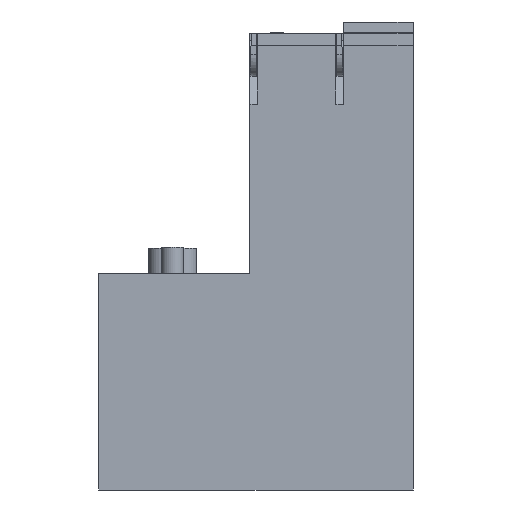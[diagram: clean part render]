
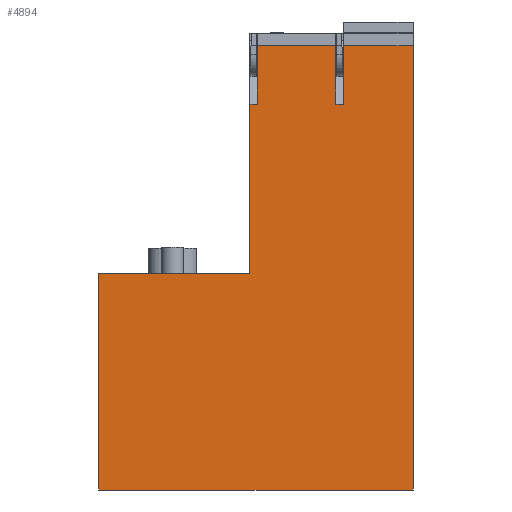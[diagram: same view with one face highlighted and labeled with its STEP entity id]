
A CAD part, front view. The second image highlights one B-rep face of the part: STEP entity #4894.
In plain terms, the highlighted planar face has unit normal (0, -1, 0).
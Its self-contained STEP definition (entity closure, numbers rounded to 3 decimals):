
#1=DIRECTION('',(0.,0.,-1.));
#2=VECTOR('',#1,35.902);
#3=CARTESIAN_POINT('',(-26.,-59.75,28.902));
#4=LINE('',#3,#2);
#43=DIRECTION('',(0.,0.,1.));
#44=VECTOR('',#43,9.689);
#45=CARTESIAN_POINT('',(14.5,-59.75,56.859));
#46=LINE('',#45,#44);
#47=DIRECTION('',(0.,0.,-1.));
#48=VECTOR('',#47,73.548);
#49=CARTESIAN_POINT('',(26.,-59.75,66.548));
#50=LINE('',#49,#48);
#51=DIRECTION('',(-1.,0.,0.));
#52=VECTOR('',#51,52.);
#53=CARTESIAN_POINT('',(26.,-59.75,-7.));
#54=LINE('',#53,#52);
#55=DIRECTION('',(0.,0.,-1.));
#56=VECTOR('',#55,9.689);
#57=CARTESIAN_POINT('',(13.2,-59.75,66.548));
#58=LINE('',#57,#56);
#59=DIRECTION('',(-1.,0.,0.));
#60=VECTOR('',#59,1.3);
#61=CARTESIAN_POINT('',(14.5,-59.75,56.859));
#62=LINE('',#61,#60);
#115=DIRECTION('',(-1.,0.,0.));
#116=VECTOR('',#115,13.);
#117=CARTESIAN_POINT('',(13.2,-59.75,66.548));
#118=LINE('',#117,#116);
#159=DIRECTION('',(0.,0.,-1.));
#160=VECTOR('',#159,9.689);
#161=CARTESIAN_POINT('',(0.2,-59.75,66.548));
#162=LINE('',#161,#160);
#163=DIRECTION('',(-1.,0.,0.));
#164=VECTOR('',#163,1.2);
#165=CARTESIAN_POINT('',(0.2,-59.75,56.859));
#166=LINE('',#165,#164);
#187=DIRECTION('',(0.,0.,-1.));
#188=VECTOR('',#187,27.957);
#189=CARTESIAN_POINT('',(-1.,-59.75,56.859));
#190=LINE('',#189,#188);
#390=DIRECTION('',(-1.,0.,0.));
#391=VECTOR('',#390,11.5);
#392=CARTESIAN_POINT('',(26.,-59.75,66.548));
#393=LINE('',#392,#391);
#1659=DIRECTION('',(-1.,0.,0.));
#1660=VECTOR('',#1659,25.);
#1661=CARTESIAN_POINT('',(-1.,-59.75,28.902));
#1662=LINE('',#1661,#1660);
#3770=CARTESIAN_POINT('',(-26.,-59.75,28.902));
#3771=CARTESIAN_POINT('',(-26.,-59.75,-7.));
#3772=VERTEX_POINT('',#3770);
#3773=VERTEX_POINT('',#3771);
#3790=CARTESIAN_POINT('',(14.5,-59.75,56.859));
#3791=CARTESIAN_POINT('',(13.2,-59.75,56.859));
#3792=VERTEX_POINT('',#3790);
#3793=VERTEX_POINT('',#3791);
#3794=CARTESIAN_POINT('',(14.5,-59.75,66.548));
#3795=VERTEX_POINT('',#3794);
#3796=CARTESIAN_POINT('',(26.,-59.75,66.548));
#3797=VERTEX_POINT('',#3796);
#3798=CARTESIAN_POINT('',(26.,-59.75,-7.));
#3799=VERTEX_POINT('',#3798);
#3800=CARTESIAN_POINT('',(-1.,-59.75,28.902));
#3801=VERTEX_POINT('',#3800);
#3802=CARTESIAN_POINT('',(-1.,-59.75,56.859));
#3803=VERTEX_POINT('',#3802);
#3804=CARTESIAN_POINT('',(0.2,-59.75,56.859));
#3805=VERTEX_POINT('',#3804);
#3806=CARTESIAN_POINT('',(0.2,-59.75,66.548));
#3807=VERTEX_POINT('',#3806);
#3808=CARTESIAN_POINT('',(13.2,-59.75,66.548));
#3809=VERTEX_POINT('',#3808);
#4864=CARTESIAN_POINT('',(-26.,-59.75,-7.));
#4865=DIRECTION('',(0.,-1.,0.));
#4866=DIRECTION('',(0.,0.,1.));
#4867=AXIS2_PLACEMENT_3D('',#4864,#4865,#4866);
#4868=PLANE('',#4867);
#4870=ORIENTED_EDGE('',*,*,#4869,.F.);
#4872=ORIENTED_EDGE('',*,*,#4871,.T.);
#4874=ORIENTED_EDGE('',*,*,#4873,.F.);
#4876=ORIENTED_EDGE('',*,*,#4875,.T.);
#4878=ORIENTED_EDGE('',*,*,#4877,.T.);
#4879=ORIENTED_EDGE('',*,*,#4841,.F.);
#4881=ORIENTED_EDGE('',*,*,#4880,.F.);
#4883=ORIENTED_EDGE('',*,*,#4882,.F.);
#4885=ORIENTED_EDGE('',*,*,#4884,.F.);
#4887=ORIENTED_EDGE('',*,*,#4886,.F.);
#4889=ORIENTED_EDGE('',*,*,#4888,.F.);
#4891=ORIENTED_EDGE('',*,*,#4890,.T.);
#4892=EDGE_LOOP('',(#4870,#4872,#4874,#4876,#4878,#4879,#4881,#4883,#4885,#4887,
#4889,#4891));
#4893=FACE_OUTER_BOUND('',#4892,.F.);
#4894=ADVANCED_FACE('',(#4893),#4868,.T.);
#4841=EDGE_CURVE('',#3772,#3773,#4,.T.);
#4869=EDGE_CURVE('',#3792,#3793,#62,.T.);
#4871=EDGE_CURVE('',#3792,#3795,#46,.T.);
#4873=EDGE_CURVE('',#3797,#3795,#393,.T.);
#4875=EDGE_CURVE('',#3797,#3799,#50,.T.);
#4877=EDGE_CURVE('',#3799,#3773,#54,.T.);
#4880=EDGE_CURVE('',#3801,#3772,#1662,.T.);
#4882=EDGE_CURVE('',#3803,#3801,#190,.T.);
#4884=EDGE_CURVE('',#3805,#3803,#166,.T.);
#4886=EDGE_CURVE('',#3807,#3805,#162,.T.);
#4888=EDGE_CURVE('',#3809,#3807,#118,.T.);
#4890=EDGE_CURVE('',#3809,#3793,#58,.T.);
